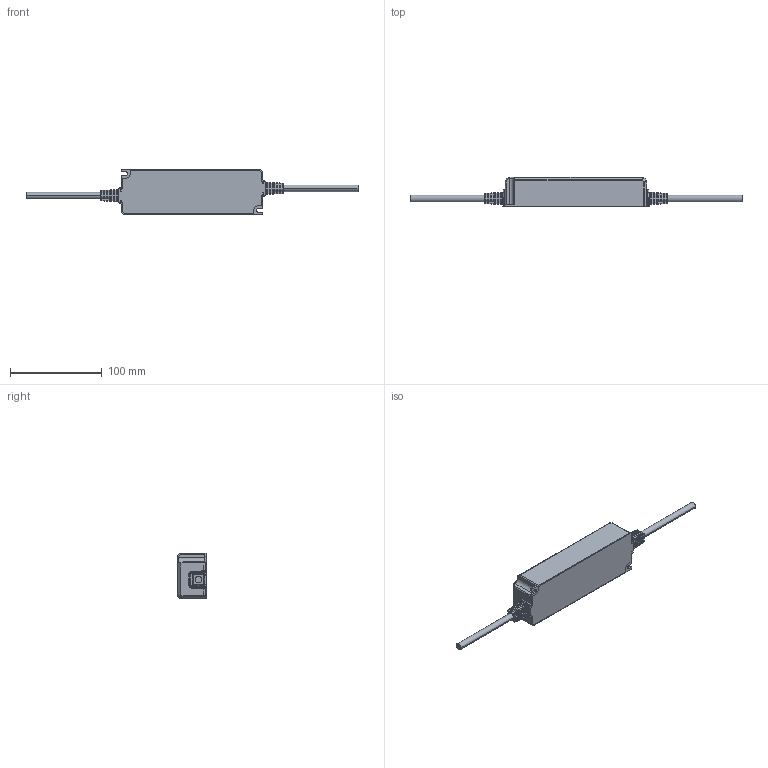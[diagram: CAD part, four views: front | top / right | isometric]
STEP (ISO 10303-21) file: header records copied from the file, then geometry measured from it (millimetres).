
FILE_DESCRIPTION((''),'2;1');
FILE_NAME('KT60_12VL_ASM_1_ASM','2016-10-31T',('017263'),(''),'CREO PARAMETRIC BY PTC INC, 2014440','CREO PARAMETRIC BY PTC INC, 2014440','');
FILE_SCHEMA(('CONFIG_CONTROL_DESIGN'));
Length unit declared in the file: millimetre
Products named in the file (4): SHANGGAI_1; DIGAI_1; XIANKA_1; KT60_12VL_ASM_1_ASM
Assembly tree (4 placements, depth 2):
  KT60_12VL_ASM_1_ASM
    SHANGGAI_1
    DIGAI_1
    XIANKA_1  x2
Bounding box: 362.6 x 32 x 50.03 mm (x, y, z)
Volume: 53241.9 mm3; surface area: 65821 mm2
Topology: 4 solids, 4 shells, 750 faces, 2089 edges, 1354 vertices
Faces by surface type: plane 522, cylinder 184, sphere 20, torus 10, cone 10, bspline 4
Entity records: 23387 total; most frequent: CARTESIAN_POINT 3946, ORIENTED_EDGE 3132, DIRECTION 2830, PRESENTATION_STYLE_ASSIGNMENT 1569, STYLED_ITEM 1569, CURVE_STYLE 1566, EDGE_CURVE 1566, VECTOR 1264
